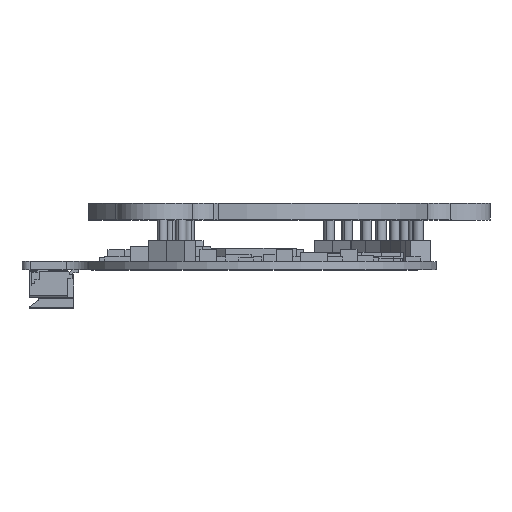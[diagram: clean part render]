
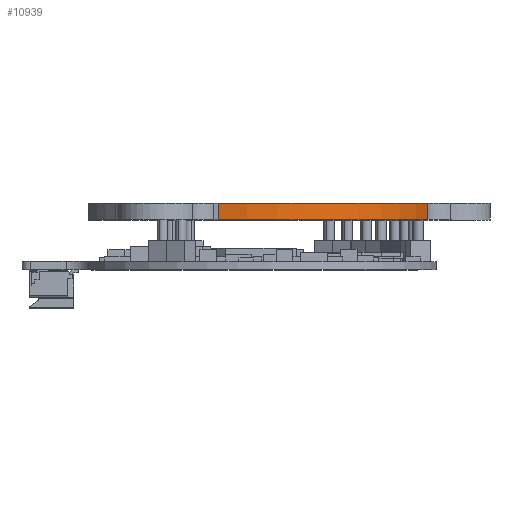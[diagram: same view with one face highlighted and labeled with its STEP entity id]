
A CAD part, top view. The second image highlights one B-rep face of the part: STEP entity #10939.
In plain terms, the highlighted cylindrical face has radius 22 mm (diameter 44 mm), a partial arc.
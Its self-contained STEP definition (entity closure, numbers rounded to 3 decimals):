
#1543 = DIRECTION ( 'NONE',  ( 0., -1., 0. ) ) ;
#3482 = EDGE_LOOP ( 'NONE', ( #18605, #39242, #19422, #43148 ) ) ;
#4914 = VERTEX_POINT ( 'NONE', #36785 ) ;
#5530 = EDGE_CURVE ( 'NONE', #39718, #4914, #25049, .T. ) ;
#6045 = CARTESIAN_POINT ( 'NONE',  ( 0., 0., 0. ) ) ;
#8978 = CARTESIAN_POINT ( 'NONE',  ( 20.845, 0., 7.035 ) ) ;
#10614 = AXIS2_PLACEMENT_3D ( 'NONE', #6045, #12991, #27339 ) ;
#10727 = VERTEX_POINT ( 'NONE', #8978 ) ;
#10939 = ADVANCED_FACE ( 'NONE', ( #18645 ), #32341, .T. ) ;
#12516 = VECTOR ( 'NONE', #1543, 1000. ) ;
#12991 = DIRECTION ( 'NONE',  ( 0., 1., 0. ) ) ;
#14804 = CARTESIAN_POINT ( 'NONE',  ( 20.845, 2., 7.035 ) ) ;
#14921 = DIRECTION ( 'NONE',  ( 0., -1., 0. ) ) ;
#18605 = ORIENTED_EDGE ( 'NONE', *, *, #27186, .T. ) ;
#18645 = FACE_OUTER_BOUND ( 'NONE', #3482, .T. ) ;
#18755 = LINE ( 'NONE', #35363, #42502 ) ;
#19411 = DIRECTION ( 'NONE',  ( 0., 1., 0. ) ) ;
#19422 = ORIENTED_EDGE ( 'NONE', *, *, #5530, .F. ) ;
#22688 = CARTESIAN_POINT ( 'NONE',  ( 0., 2., 0. ) ) ;
#24219 = CARTESIAN_POINT ( 'NONE',  ( -4.329, 0., 21.57 ) ) ;
#25049 = CIRCLE ( 'NONE', #35800, 22. ) ;
#27186 = EDGE_CURVE ( 'NONE', #37795, #10727, #37859, .T. ) ;
#27339 = DIRECTION ( 'NONE',  ( 0., 0., 1. ) ) ;
#29516 = CARTESIAN_POINT ( 'NONE',  ( 0., 2., 0. ) ) ;
#32341 = CYLINDRICAL_SURFACE ( 'NONE', #37417, 22. ) ;
#35363 = CARTESIAN_POINT ( 'NONE',  ( -4.329, 2., 21.57 ) ) ;
#35800 = AXIS2_PLACEMENT_3D ( 'NONE', #29516, #19411, #43565 ) ;
#36370 = DIRECTION ( 'NONE',  ( 0., 0., -1. ) ) ;
#36785 = CARTESIAN_POINT ( 'NONE',  ( 20.845, 2., 7.035 ) ) ;
#37417 = AXIS2_PLACEMENT_3D ( 'NONE', #22688, #42617, #36370 ) ;
#37795 = VERTEX_POINT ( 'NONE', #24219 ) ;
#37859 = CIRCLE ( 'NONE', #10614, 22. ) ;
#39242 = ORIENTED_EDGE ( 'NONE', *, *, #43017, .F. ) ;
#39718 = VERTEX_POINT ( 'NONE', #40723 ) ;
#40723 = CARTESIAN_POINT ( 'NONE',  ( -4.329, 2., 21.57 ) ) ;
#41699 = EDGE_CURVE ( 'NONE', #39718, #37795, #18755, .T. ) ;
#42357 = LINE ( 'NONE', #14804, #12516 ) ;
#42502 = VECTOR ( 'NONE', #14921, 1000. ) ;
#42617 = DIRECTION ( 'NONE',  ( 0., -1., 0. ) ) ;
#43017 = EDGE_CURVE ( 'NONE', #4914, #10727, #42357, .T. ) ;
#43148 = ORIENTED_EDGE ( 'NONE', *, *, #41699, .T. ) ;
#43565 = DIRECTION ( 'NONE',  ( 0., 0., 1. ) ) ;
